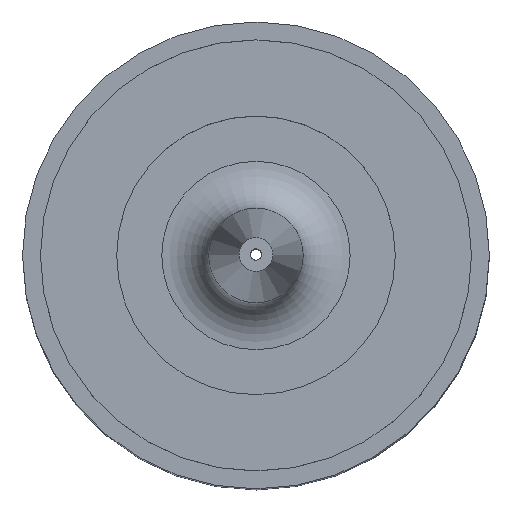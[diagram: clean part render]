
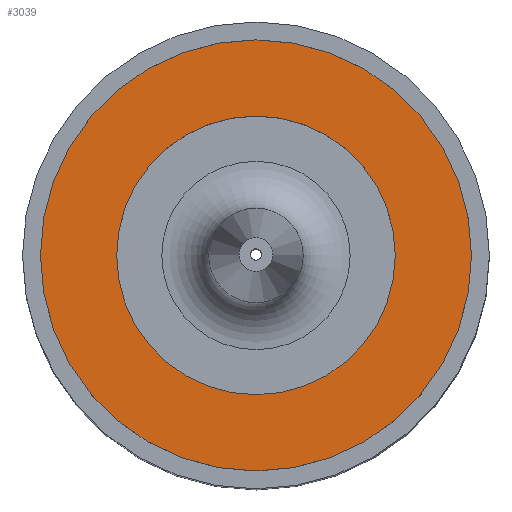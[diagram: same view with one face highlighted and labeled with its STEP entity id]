
A CAD part, top view. The second image highlights one B-rep face of the part: STEP entity #3039.
In plain terms, the highlighted planar face has unit normal (0, 0, 1) as drawn and (0, 0, -1) by its records, which use the part's own axes.
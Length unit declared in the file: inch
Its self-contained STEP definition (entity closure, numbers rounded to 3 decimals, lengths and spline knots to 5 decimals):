
#2973=CARTESIAN_POINT('',(0.5725,0.0,0.0));
#2974=VERTEX_POINT('',#2973);
#2975=CARTESIAN_POINT('',(0.0,0.0,0.0));
#2976=DIRECTION('',(0.0,0.0,1.0));
#2977=DIRECTION('',(1.0,0.0,0.0));
#2978=AXIS2_PLACEMENT_3D('',#2975,#2976,#2977);
#2979=CIRCLE('',#2978,0.5725);
#2980=EDGE_CURVE('',#2974,#2974,#2979,.T.);
#3016=CARTESIAN_POINT('',(0.37,0.0,0.0));
#3017=VERTEX_POINT('',#3016);
#3018=CARTESIAN_POINT('',(0.0,0.0,0.0));
#3019=DIRECTION('',(0.0,0.0,1.0));
#3020=DIRECTION('',(1.0,0.0,0.0));
#3021=AXIS2_PLACEMENT_3D('',#3018,#3019,#3020);
#3022=CIRCLE('',#3021,0.37);
#3023=EDGE_CURVE('',#3017,#3017,#3022,.T.);
#3028=CARTESIAN_POINT('',(0.,0.0,0.0));
#3029=DIRECTION('',(0.0,0.0,1.0));
#3030=DIRECTION('',(1.0,0.0,0.0));
#3031=AXIS2_PLACEMENT_3D('',#3028,#3029,#3030);
#3032=PLANE('',#3031);
#3033=ORIENTED_EDGE('',*,*,#2980,.F.);
#3034=EDGE_LOOP('',(#3033));
#3035=FACE_OUTER_BOUND('',#3034,.T.);
#3036=ORIENTED_EDGE('',*,*,#3023,.T.);
#3037=EDGE_LOOP('',(#3036));
#3038=FACE_BOUND('',#3037,.T.);
#3039=ADVANCED_FACE('',(#3035,#3038),#3032,.F.);
